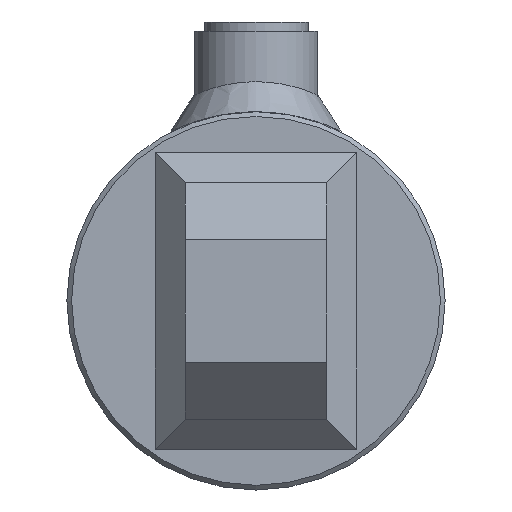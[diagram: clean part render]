
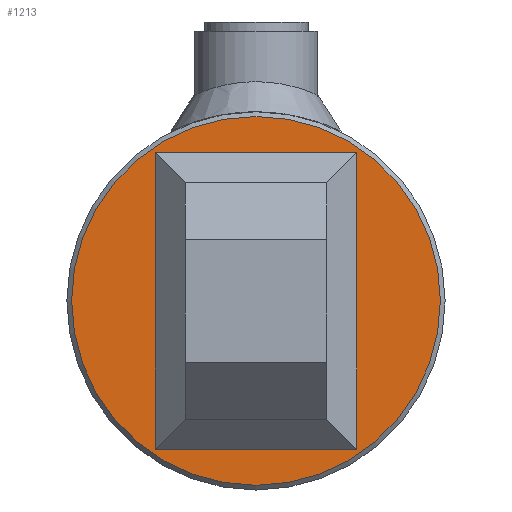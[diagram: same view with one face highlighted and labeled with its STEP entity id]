
A CAD part, left-side view. The second image highlights one B-rep face of the part: STEP entity #1213.
In plain terms, the highlighted planar face has unit normal (-1, 0, 0).
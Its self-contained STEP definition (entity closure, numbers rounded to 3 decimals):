
#1213 = ADVANCED_FACE( '', ( #2283 ), #2284, .T. );
#2283 = FACE_OUTER_BOUND( '', #5870, .T. );
#2284 = PLANE( '', #5871 );
#5870 = EDGE_LOOP( '', ( #7359 ) );
#5871 = AXIS2_PLACEMENT_3D( '', #7360, #7361, #7362 );
#7359 = ORIENTED_EDGE( '', *, *, #7693, .T. );
#7360 = CARTESIAN_POINT( '', ( -12., 0., 0. ) );
#7361 = DIRECTION( '', ( -1., 0., 0. ) );
#7362 = DIRECTION( '', ( 0., -1., 0. ) );
#7693 = EDGE_CURVE( '', #8528, #8528, #8529, .T. );
#8528 = VERTEX_POINT( '', #10058 );
#8529 = CIRCLE( '', #10059, 39. );
#10058 = CARTESIAN_POINT( '', ( -12., -39., 0. ) );
#10059 = AXIS2_PLACEMENT_3D( '', #11202, #11203, #11204 );
#11202 = CARTESIAN_POINT( '', ( -12., 0., 0. ) );
#11203 = DIRECTION( '', ( -1., 0., 0. ) );
#11204 = DIRECTION( '', ( 0., -1., 0. ) );
